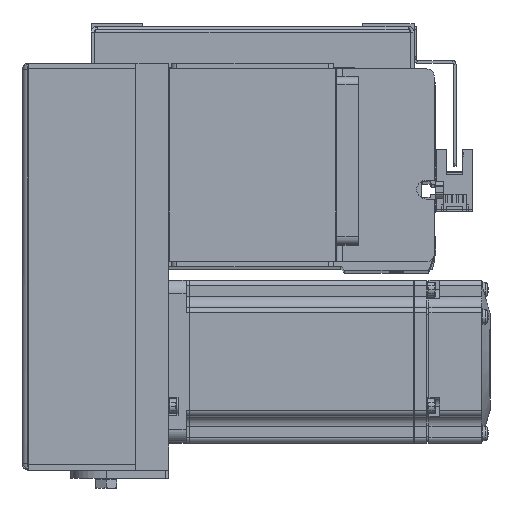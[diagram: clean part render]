
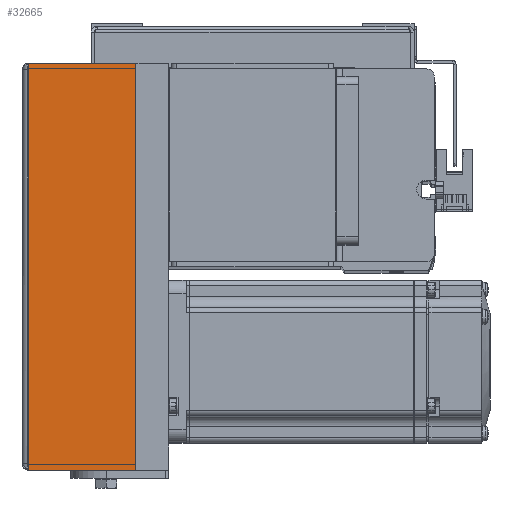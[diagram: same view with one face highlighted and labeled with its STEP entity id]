
A CAD part, top view. The second image highlights one B-rep face of the part: STEP entity #32665.
In plain terms, the highlighted planar face has unit normal (0, 0, 1) as drawn and (0, -1, 0) by its records, which use the part's own axes.
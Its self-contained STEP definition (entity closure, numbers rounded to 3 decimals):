
#1267 = CARTESIAN_POINT ( 'NONE',  ( 75., -36., 51.5 ) ) ;
#1942 = CARTESIAN_POINT ( 'NONE',  ( 0., -36., 12. ) ) ;
#2288 = DIRECTION ( 'NONE',  ( 0., 0., -1. ) ) ;
#2407 = DIRECTION ( 'NONE',  ( 1., 0., 0. ) ) ;
#2469 = FACE_OUTER_BOUND ( 'NONE', #28141, .T. ) ;
#4734 = CARTESIAN_POINT ( 'NONE',  ( 0., -36., 52. ) ) ;
#5822 = CARTESIAN_POINT ( 'NONE',  ( 75., -36., 12. ) ) ;
#6752 = CARTESIAN_POINT ( 'NONE',  ( -75., -36., 51.5 ) ) ;
#7047 = LINE ( 'NONE', #1942, #9012 ) ;
#7305 = DIRECTION ( 'NONE',  ( 0., 0., -1. ) ) ;
#7787 = VERTEX_POINT ( 'NONE', #6752 ) ;
#8987 = ORIENTED_EDGE ( 'NONE', *, *, #15815, .F. ) ;
#9012 = VECTOR ( 'NONE', #12937, 1000. ) ;
#12431 = AXIS2_PLACEMENT_3D ( 'NONE', #4734, #28370, #2288 ) ;
#12566 = ORIENTED_EDGE ( 'NONE', *, *, #26137, .T. ) ;
#12937 = DIRECTION ( 'NONE',  ( 1., 0., 0. ) ) ;
#14397 = EDGE_CURVE ( 'NONE', #7787, #25919, #22838, .T. ) ;
#15815 = EDGE_CURVE ( 'NONE', #25919, #28246, #35857, .T. ) ;
#16820 = CARTESIAN_POINT ( 'NONE',  ( 75., -36., 51.5 ) ) ;
#17695 = CARTESIAN_POINT ( 'NONE',  ( -75., -36., 12. ) ) ;
#18859 = ORIENTED_EDGE ( 'NONE', *, *, #14397, .F. ) ;
#20319 = EDGE_CURVE ( 'NONE', #7787, #29238, #27058, .T. ) ;
#21330 = VECTOR ( 'NONE', #21770, 1000. ) ;
#21770 = DIRECTION ( 'NONE',  ( 0., 0., -1. ) ) ;
#22231 = VECTOR ( 'NONE', #7305, 1000. ) ;
#22838 = LINE ( 'NONE', #16820, #26353 ) ;
#25919 = VERTEX_POINT ( 'NONE', #34305 ) ;
#26137 = EDGE_CURVE ( 'NONE', #29238, #28246, #7047, .T. ) ;
#26353 = VECTOR ( 'NONE', #2407, 1000. ) ;
#27058 = LINE ( 'NONE', #29705, #21330 ) ;
#28141 = EDGE_LOOP ( 'NONE', ( #18859, #32980, #12566, #8987 ) ) ;
#28246 = VERTEX_POINT ( 'NONE', #5822 ) ;
#28370 = DIRECTION ( 'NONE',  ( 0., 1., 0. ) ) ;
#29238 = VERTEX_POINT ( 'NONE', #17695 ) ;
#29705 = CARTESIAN_POINT ( 'NONE',  ( -75., -36., 51.5 ) ) ;
#32665 = ADVANCED_FACE ( 'NONE', ( #2469 ), #36690, .F. ) ;
#32980 = ORIENTED_EDGE ( 'NONE', *, *, #20319, .T. ) ;
#34305 = CARTESIAN_POINT ( 'NONE',  ( 75., -36., 51.5 ) ) ;
#35857 = LINE ( 'NONE', #1267, #22231 ) ;
#36690 = PLANE ( 'NONE',  #12431 ) ;
